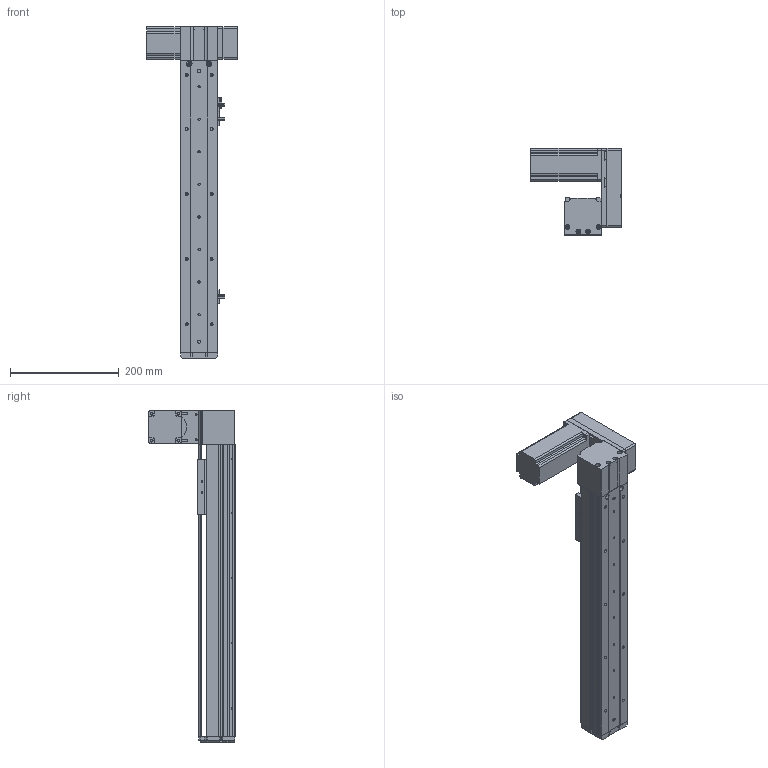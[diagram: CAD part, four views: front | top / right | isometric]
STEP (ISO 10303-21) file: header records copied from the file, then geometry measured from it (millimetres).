
FILE_DESCRIPTION (( 'STEP AP214' ), '1' );
FILE_NAME ('KSD68BS-S350-MLU-CM.STEP', '2019-11-05T03:51:13', ( '微软用户' ), ( '微软中国' ), 'SwSTEP 2.0', 'SolidWorks 2014', '' );
FILE_SCHEMA (( 'AUTOMOTIVE_DESIGN' ));
Length unit declared in the file: millimetre
Products named in the file (11): 68单导轨同步带半封闭端板; KSD68BS 350俴最裔啣圉猾敕; 覜茼え68遵圉猾敕; KSD68BS半封闭同步带传动导轨座; U倰嫖萇EEㄜSX672; 台达ECMA－C20604AS伺服电机（400W); KSD68BS 350俴最菁啣圉猾敕; KSD68BS-S350-MLU-CM; 悵誘欶奻狟殏; 68宽马达安装板连板上折同步带; 68宽单导轨半封闭同步带主动轮座左
Assembly tree (12 placements, depth 2):
  KSD68BS-S350-MLU-CM
    KSD68BS 350俴最菁啣圉猾敕
    台达ECMA－C20604AS伺服电机（400W)
    U倰嫖萇EEㄜSX672  x3
    KSD68BS半封闭同步带传动导轨座
    覜茼え68遵圉猾敕
    KSD68BS 350俴最裔啣圉猾敕
    68单导轨同步带半封闭端板
    68宽单导轨半封闭同步带主动轮座左
    68宽马达安装板连板上折同步带
    悵誘欶奻狟殏
Bounding box: 167.2 x 159.5 x 612 mm (x, y, z)
Volume: 1550676.9 mm3; surface area: 486351.2 mm2
Topology: 13 solids, 13 shells, 1234 faces, 3484 edges, 2260 vertices
Faces by surface type: cylinder 586, plane 565, cone 83
Entity records: 42990 total; most frequent: CARTESIAN_POINT 7754, DIRECTION 5768, ORIENTED_EDGE 5720, EDGE_CURVE 2860, AXIS2_PLACEMENT_3D 2058, VERTEX_POINT 1884, VECTOR 1652, LINE 1652
